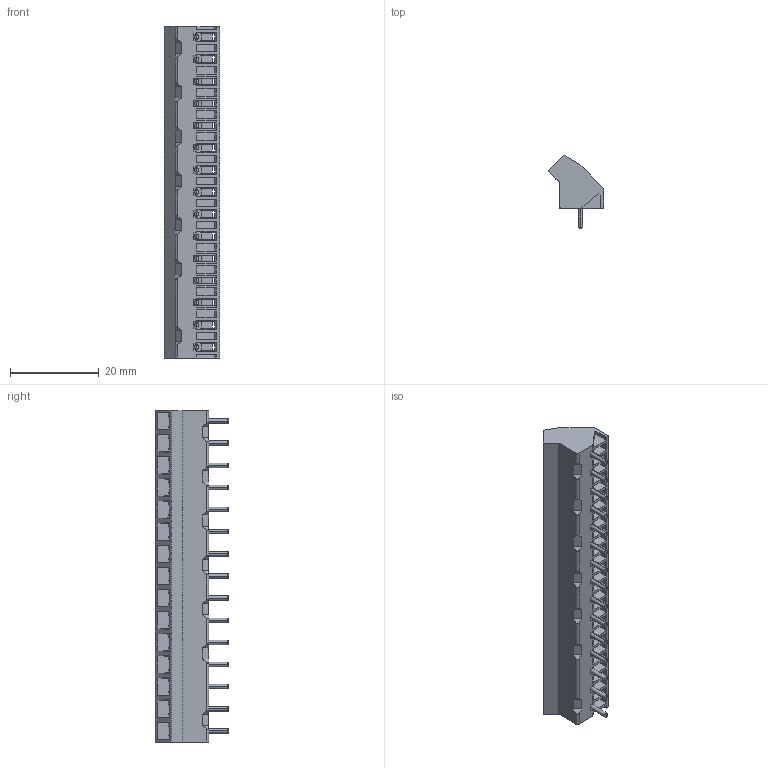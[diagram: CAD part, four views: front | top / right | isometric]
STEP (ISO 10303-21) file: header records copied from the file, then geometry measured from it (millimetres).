
FILE_DESCRIPTION (( 'STEP AP214' ), '1' );
FILE_NAME ('974-FB-15.STEP', '2009-02-19T21:50:06', ( 'weco' ), ( 'weco' ), 'SwSTEP 2.0', 'SolidWorks 2007', '' );
FILE_SCHEMA (( 'AUTOMOTIVE_DESIGN' ));
Length unit declared in the file: millimetre
Products named in the file (1): 974-FB-15
Bounding box: 12.5 x 16.5 x 75 mm (x, y, z)
Volume: 5073.1 mm3; surface area: 6090.1 mm2
Topology: 1 solids, 1 shells, 1239 faces, 3339 edges, 2146 vertices
Faces by surface type: plane 948, cylinder 231, cone 60
Entity records: 38649 total; most frequent: CARTESIAN_POINT 7712, ORIENTED_EDGE 6678, DIRECTION 6033, EDGE_CURVE 3339, VECTOR 2667, LINE 2667, VERTEX_POINT 2146, AXIS2_PLACEMENT_3D 1683
